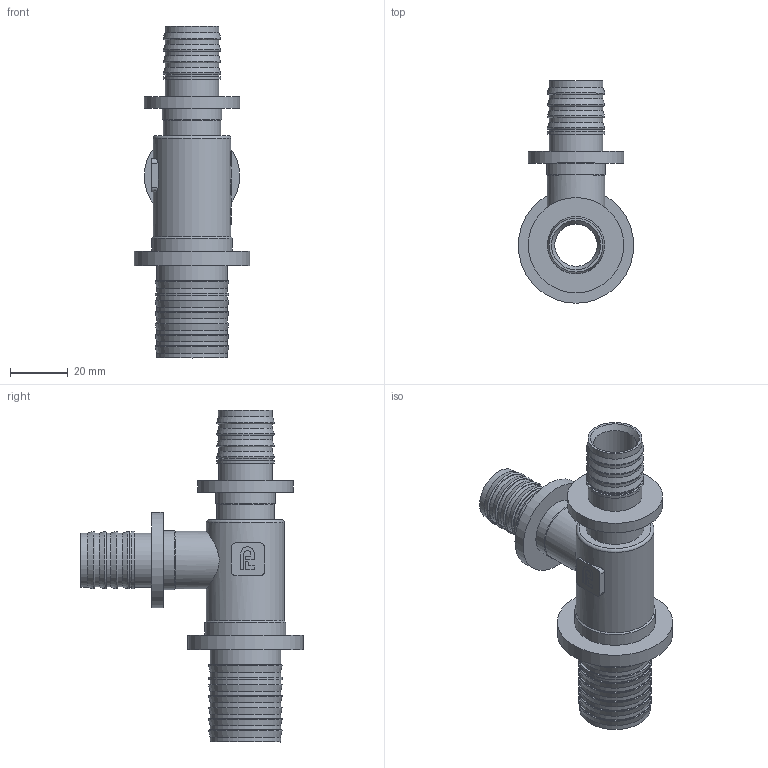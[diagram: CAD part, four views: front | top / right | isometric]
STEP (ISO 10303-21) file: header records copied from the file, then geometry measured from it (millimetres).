
FILE_DESCRIPTION(/* description */ (''),/* implementation_level */ '2;1');
FILE_NAME(/* name */ 'C:\Users\Doom\Desktop\Фадотех\Натяжка\SFT23_NEW 32x25x25 19.08.2020\SFT23_NEW 32x25x25 19.08.2020.stp',/* time_stamp */ '2022-07-26T00:43:06+03:00',/* author */ ('Doom'),/* organization */ (''),/* preprocessor_version */ 'ST-DEVELOPER v18',/* originating_system */ 'Autodesk Inventor 2020',/* authorisation */ '');
FILE_SCHEMA (('AUTOMOTIVE_DESIGN { 1 0 10303 214 3 1 1 }'));
Length unit declared in the file: millimetre
Products named in the file (1): SFT23_NEW 32x25x25 19.08.2020
Bounding box: 40 x 77 x 115 mm (x, y, z)
Volume: 35350.2 mm3; surface area: 25278.9 mm2
Topology: 1 solids, 1 shells, 280 faces, 785 edges, 546 vertices
Faces by surface type: bspline 110, plane 91, cylinder 43, cone 21, torus 15
Full cylindrical faces by diameter (mm): 14.7 x2, 18.555 x6, 18.626 x4, 18.7 x2, 19.9 x2, 20 x3, 20.5 x2, 24.38 x2, 24.4 x6, 25.5 x1, 27 x1, 28 x1, 33 x2, 40 x1
Entity records: 11747 total; most frequent: CARTESIAN_POINT 4902, ORIENTED_EDGE 1570, DIRECTION 1168, EDGE_CURVE 785, VERTEX_POINT 546, AXIS2_PLACEMENT_3D 436, EDGE_LOOP 323, LINE 296
